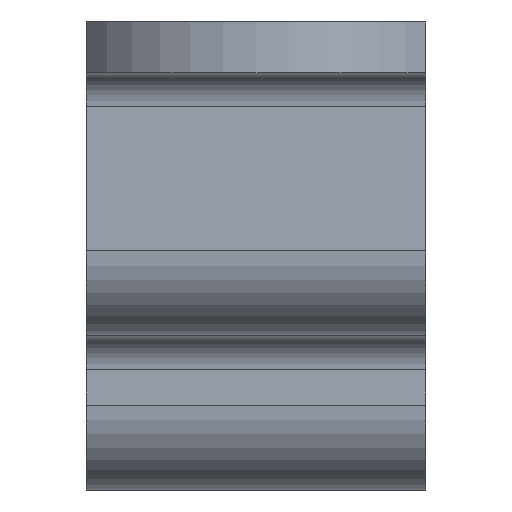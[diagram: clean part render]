
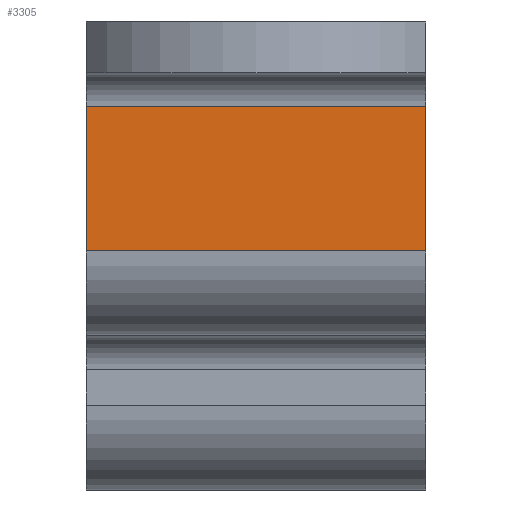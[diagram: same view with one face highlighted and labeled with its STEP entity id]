
A CAD part, left-side view. The second image highlights one B-rep face of the part: STEP entity #3305.
In plain terms, the highlighted planar face has unit normal (-1, 0, 0).
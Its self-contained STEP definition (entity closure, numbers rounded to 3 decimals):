
#240=DIRECTION('',(0.,0.,1.));
#241=VECTOR('',#240,8.5);
#242=CARTESIAN_POINT('',(-27.5,-10.,-12.));
#243=LINE('',#242,#241);
#336=DIRECTION('',(0.,0.,1.));
#337=VECTOR('',#336,8.5);
#338=CARTESIAN_POINT('',(-27.5,10.,-12.));
#339=LINE('',#338,#337);
#1118=DIRECTION('',(0.,1.,0.));
#1119=VECTOR('',#1118,20.);
#1120=CARTESIAN_POINT('',(-27.5,-10.,-12.));
#1121=LINE('',#1120,#1119);
#1145=DIRECTION('',(0.,1.,0.));
#1146=VECTOR('',#1145,20.);
#1147=CARTESIAN_POINT('',(-27.5,-10.,-3.5));
#1148=LINE('',#1147,#1146);
#1836=CARTESIAN_POINT('',(-27.5,-10.,-3.5));
#1837=CARTESIAN_POINT('',(-27.5,10.,-3.5));
#1838=VERTEX_POINT('',#1836);
#1839=VERTEX_POINT('',#1837);
#1856=CARTESIAN_POINT('',(-27.5,-10.,-12.));
#1857=CARTESIAN_POINT('',(-27.5,10.,-12.));
#1858=VERTEX_POINT('',#1856);
#1859=VERTEX_POINT('',#1857);
#3293=CARTESIAN_POINT('',(-27.5,-10.,-17.));
#3294=DIRECTION('',(-1.,0.,0.));
#3295=DIRECTION('',(0.,0.,1.));
#3296=AXIS2_PLACEMENT_3D('',#3293,#3294,#3295);
#3297=PLANE('',#3296);
#3298=ORIENTED_EDGE('',*,*,#2253,.F.);
#3299=ORIENTED_EDGE('',*,*,#3285,.T.);
#3300=ORIENTED_EDGE('',*,*,#2359,.T.);
#3302=ORIENTED_EDGE('',*,*,#3301,.F.);
#3303=EDGE_LOOP('',(#3298,#3299,#3300,#3302));
#3304=FACE_OUTER_BOUND('',#3303,.F.);
#2253=EDGE_CURVE('',#1858,#1838,#243,.T.);
#2359=EDGE_CURVE('',#1859,#1839,#339,.T.);
#3285=EDGE_CURVE('',#1858,#1859,#1121,.T.);
#3301=EDGE_CURVE('',#1838,#1839,#1148,.T.);
#3305=ADVANCED_FACE('',(#3304),#3297,.T.);
